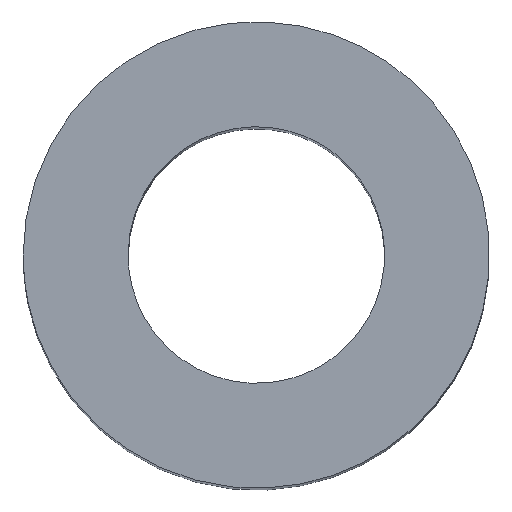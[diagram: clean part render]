
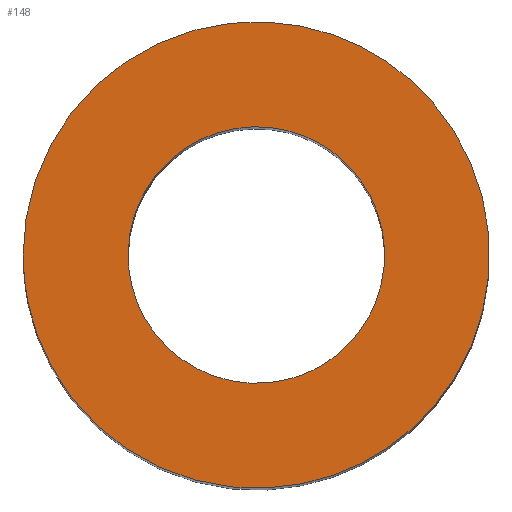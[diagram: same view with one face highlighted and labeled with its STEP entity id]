
A CAD part, top view. The second image highlights one B-rep face of the part: STEP entity #148.
In plain terms, the highlighted free-form (B-spline) face has degree [1, 1] with [2, 2] control points.
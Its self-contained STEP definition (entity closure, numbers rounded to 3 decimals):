
#115 = EDGE_CURVE('',#116,#116,#118,.T.);
#116 = VERTEX_POINT('',#117);
#117 = CARTESIAN_POINT('',(-3.,0.,15.));
#118 = ( BOUNDED_CURVE() B_SPLINE_CURVE(2,(#119,#120,#121,#122,#123,#124
,#125),.UNSPECIFIED.,.T.,.F.) B_SPLINE_CURVE_WITH_KNOTS((1,2,2,2,2,1),(
    -2.094,0.,2.094,4.189,6.283,
8.378),.UNSPECIFIED.) CURVE() GEOMETRIC_REPRESENTATION_ITEM() 
RATIONAL_B_SPLINE_CURVE((1.,0.5,1.,0.5,1.,0.5,1.)) REPRESENTATION_ITEM(
  '') );
#119 = CARTESIAN_POINT('',(-3.,0.,15.));
#120 = CARTESIAN_POINT('',(-3.,5.196,15.));
#121 = CARTESIAN_POINT('',(1.5,2.598,15.));
#122 = CARTESIAN_POINT('',(6.,0.,15.));
#123 = CARTESIAN_POINT('',(1.5,-2.598,15.));
#124 = CARTESIAN_POINT('',(-3.,-5.196,15.));
#125 = CARTESIAN_POINT('',(-3.,0.,15.));
#148 = ADVANCED_FACE('',(#149,#163),#166,.T.);
#149 = FACE_BOUND('',#150,.T.);
#150 = EDGE_LOOP('',(#151));
#151 = ORIENTED_EDGE('',*,*,#152,.T.);
#152 = EDGE_CURVE('',#153,#153,#155,.T.);
#153 = VERTEX_POINT('',#154);
#154 = CARTESIAN_POINT('',(-1.65,0.,15.));
#155 = ( BOUNDED_CURVE() B_SPLINE_CURVE(2,(#156,#157,#158,#159,#160,#161
,#162),.UNSPECIFIED.,.T.,.F.) B_SPLINE_CURVE_WITH_KNOTS((1,2,2,2,2,1),(
    -2.094,0.,2.094,4.189,6.283,
8.378),.UNSPECIFIED.) CURVE() GEOMETRIC_REPRESENTATION_ITEM() 
RATIONAL_B_SPLINE_CURVE((1.,0.5,1.,0.5,1.,0.5,1.)) REPRESENTATION_ITEM(
  '') );
#156 = CARTESIAN_POINT('',(-1.65,0.,15.));
#157 = CARTESIAN_POINT('',(-1.65,2.858,15.));
#158 = CARTESIAN_POINT('',(0.825,1.429,15.));
#159 = CARTESIAN_POINT('',(3.3,0.,15.));
#160 = CARTESIAN_POINT('',(0.825,-1.429,15.));
#161 = CARTESIAN_POINT('',(-1.65,-2.858,15.));
#162 = CARTESIAN_POINT('',(-1.65,0.,15.));
#163 = FACE_BOUND('',#164,.T.);
#164 = EDGE_LOOP('',(#165));
#165 = ORIENTED_EDGE('',*,*,#115,.F.);
#166 = B_SPLINE_SURFACE_WITH_KNOTS('',1,1,(
    (#167,#168)
    ,(#169,#170
  )),.UNSPECIFIED.,.F.,.F.,.F.,(2,2),(2,2),(0.,6.),(-3.,3.),
  .PIECEWISE_BEZIER_KNOTS.);
#167 = CARTESIAN_POINT('',(-3.,-3.,15.));
#168 = CARTESIAN_POINT('',(-3.,3.,15.));
#169 = CARTESIAN_POINT('',(3.,-3.,15.));
#170 = CARTESIAN_POINT('',(3.,3.,15.));
